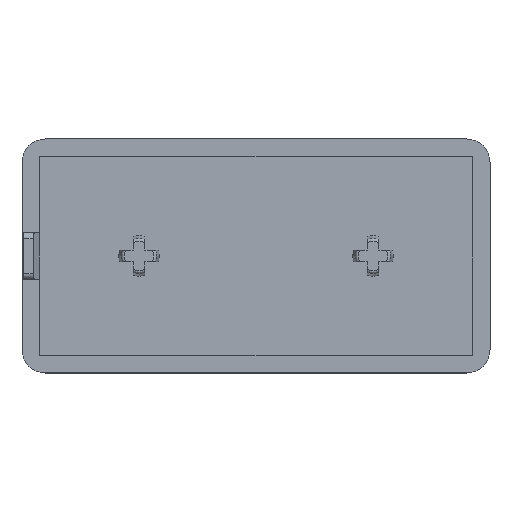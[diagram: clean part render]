
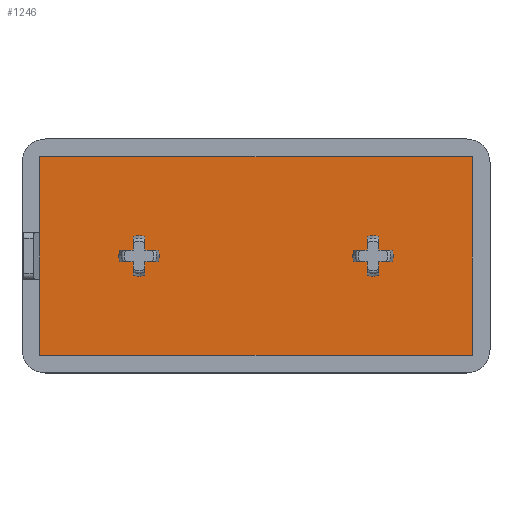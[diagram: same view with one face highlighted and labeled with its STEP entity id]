
A CAD part, top view. The second image highlights one B-rep face of the part: STEP entity #1246.
In plain terms, the highlighted planar face has unit normal (0, 0, 1).
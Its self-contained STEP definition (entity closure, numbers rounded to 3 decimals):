
#33=FACE_BOUND('',#398,.T.);
#34=FACE_BOUND('',#399,.T.);
#36=PLANE('',#1355);
#85=LINE('',#1952,#188);
#86=LINE('',#1954,#189);
#87=LINE('',#1956,#190);
#88=LINE('',#1957,#191);
#89=LINE('',#1959,#192);
#90=LINE('',#1961,#193);
#91=LINE('',#1965,#194);
#92=LINE('',#1967,#195);
#93=LINE('',#1971,#196);
#94=LINE('',#1973,#197);
#95=LINE('',#1977,#198);
#96=LINE('',#1978,#199);
#97=LINE('',#1980,#200);
#98=LINE('',#1982,#201);
#99=LINE('',#1986,#202);
#100=LINE('',#1988,#203);
#101=LINE('',#1992,#204);
#102=LINE('',#1994,#205);
#103=LINE('',#1998,#206);
#104=LINE('',#1999,#207);
#188=VECTOR('',#1524,34.);
#189=VECTOR('',#1525,74.);
#190=VECTOR('',#1526,34.);
#191=VECTOR('',#1527,74.);
#192=VECTOR('',#1528,2.302);
#193=VECTOR('',#1529,2.302);
#194=VECTOR('',#1532,2.302);
#195=VECTOR('',#1533,2.302);
#196=VECTOR('',#1536,2.302);
#197=VECTOR('',#1537,2.303);
#198=VECTOR('',#1540,2.303);
#199=VECTOR('',#1541,2.302);
#200=VECTOR('',#1542,2.302);
#201=VECTOR('',#1543,2.302);
#202=VECTOR('',#1546,2.302);
#203=VECTOR('',#1547,2.302);
#204=VECTOR('',#1550,2.302);
#205=VECTOR('',#1551,2.303);
#206=VECTOR('',#1554,2.303);
#207=VECTOR('',#1555,2.302);
#324=FACE_OUTER_BOUND('',#397,.T.);
#397=EDGE_LOOP('',(#889,#890,#891,#892));
#398=EDGE_LOOP('',(#893,#894,#895,#896,#897,#898,#899,#900,#901,#902,#903,
#904));
#399=EDGE_LOOP('',(#905,#906,#907,#908,#909,#910,#911,#912,#913,#914,#915,
#916));
#488=CIRCLE('',#1347,3.45);
#489=CIRCLE('',#1349,3.45);
#494=CIRCLE('',#1356,3.45);
#495=CIRCLE('',#1357,3.45);
#496=CIRCLE('',#1358,3.45);
#497=CIRCLE('',#1359,3.45);
#498=CIRCLE('',#1360,3.45);
#499=CIRCLE('',#1361,3.45);
#550=VERTEX_POINT('',#1905);
#551=VERTEX_POINT('',#1907);
#552=VERTEX_POINT('',#1911);
#553=VERTEX_POINT('',#1913);
#570=VERTEX_POINT('',#1950);
#571=VERTEX_POINT('',#1951);
#572=VERTEX_POINT('',#1953);
#573=VERTEX_POINT('',#1955);
#574=VERTEX_POINT('',#1958);
#575=VERTEX_POINT('',#1960);
#576=VERTEX_POINT('',#1962);
#577=VERTEX_POINT('',#1964);
#578=VERTEX_POINT('',#1966);
#579=VERTEX_POINT('',#1968);
#580=VERTEX_POINT('',#1970);
#581=VERTEX_POINT('',#1972);
#582=VERTEX_POINT('',#1974);
#583=VERTEX_POINT('',#1976);
#584=VERTEX_POINT('',#1979);
#585=VERTEX_POINT('',#1981);
#586=VERTEX_POINT('',#1983);
#587=VERTEX_POINT('',#1985);
#588=VERTEX_POINT('',#1987);
#589=VERTEX_POINT('',#1989);
#590=VERTEX_POINT('',#1991);
#591=VERTEX_POINT('',#1993);
#592=VERTEX_POINT('',#1995);
#593=VERTEX_POINT('',#1997);
#675=EDGE_CURVE('',#550,#551,#488,.T.);
#678=EDGE_CURVE('',#552,#553,#489,.T.);
#696=EDGE_CURVE('',#570,#571,#85,.T.);
#697=EDGE_CURVE('',#571,#572,#86,.T.);
#698=EDGE_CURVE('',#572,#573,#87,.T.);
#699=EDGE_CURVE('',#573,#570,#88,.T.);
#700=EDGE_CURVE('',#574,#552,#89,.T.);
#701=EDGE_CURVE('',#575,#574,#90,.T.);
#702=EDGE_CURVE('',#576,#575,#494,.T.);
#703=EDGE_CURVE('',#577,#576,#91,.T.);
#704=EDGE_CURVE('',#578,#577,#92,.T.);
#705=EDGE_CURVE('',#579,#578,#495,.T.);
#706=EDGE_CURVE('',#580,#579,#93,.T.);
#707=EDGE_CURVE('',#581,#580,#94,.T.);
#708=EDGE_CURVE('',#582,#581,#496,.T.);
#709=EDGE_CURVE('',#583,#582,#95,.T.);
#710=EDGE_CURVE('',#553,#583,#96,.T.);
#711=EDGE_CURVE('',#584,#550,#97,.T.);
#712=EDGE_CURVE('',#585,#584,#98,.T.);
#713=EDGE_CURVE('',#586,#585,#497,.T.);
#714=EDGE_CURVE('',#587,#586,#99,.T.);
#715=EDGE_CURVE('',#588,#587,#100,.T.);
#716=EDGE_CURVE('',#589,#588,#498,.T.);
#717=EDGE_CURVE('',#590,#589,#101,.T.);
#718=EDGE_CURVE('',#591,#590,#102,.T.);
#719=EDGE_CURVE('',#592,#591,#499,.T.);
#720=EDGE_CURVE('',#593,#592,#103,.T.);
#721=EDGE_CURVE('',#551,#593,#104,.T.);
#889=ORIENTED_EDGE('',*,*,#696,.T.);
#890=ORIENTED_EDGE('',*,*,#697,.T.);
#891=ORIENTED_EDGE('',*,*,#698,.T.);
#892=ORIENTED_EDGE('',*,*,#699,.T.);
#893=ORIENTED_EDGE('',*,*,#678,.F.);
#894=ORIENTED_EDGE('',*,*,#700,.F.);
#895=ORIENTED_EDGE('',*,*,#701,.F.);
#896=ORIENTED_EDGE('',*,*,#702,.F.);
#897=ORIENTED_EDGE('',*,*,#703,.F.);
#898=ORIENTED_EDGE('',*,*,#704,.F.);
#899=ORIENTED_EDGE('',*,*,#705,.F.);
#900=ORIENTED_EDGE('',*,*,#706,.F.);
#901=ORIENTED_EDGE('',*,*,#707,.F.);
#902=ORIENTED_EDGE('',*,*,#708,.F.);
#903=ORIENTED_EDGE('',*,*,#709,.F.);
#904=ORIENTED_EDGE('',*,*,#710,.F.);
#905=ORIENTED_EDGE('',*,*,#675,.F.);
#906=ORIENTED_EDGE('',*,*,#711,.F.);
#907=ORIENTED_EDGE('',*,*,#712,.F.);
#908=ORIENTED_EDGE('',*,*,#713,.F.);
#909=ORIENTED_EDGE('',*,*,#714,.F.);
#910=ORIENTED_EDGE('',*,*,#715,.F.);
#911=ORIENTED_EDGE('',*,*,#716,.F.);
#912=ORIENTED_EDGE('',*,*,#717,.F.);
#913=ORIENTED_EDGE('',*,*,#718,.F.);
#914=ORIENTED_EDGE('',*,*,#719,.F.);
#915=ORIENTED_EDGE('',*,*,#720,.F.);
#916=ORIENTED_EDGE('',*,*,#721,.F.);
#1246=ADVANCED_FACE('',(#324,#33,#34),#36,.T.);
#1347=AXIS2_PLACEMENT_3D('',#1908,#1491,#1492);
#1349=AXIS2_PLACEMENT_3D('',#1914,#1497,#1498);
#1355=AXIS2_PLACEMENT_3D('',#1949,#1522,#1523);
#1356=AXIS2_PLACEMENT_3D('',#1963,#1530,#1531);
#1357=AXIS2_PLACEMENT_3D('',#1969,#1534,#1535);
#1358=AXIS2_PLACEMENT_3D('',#1975,#1538,#1539);
#1359=AXIS2_PLACEMENT_3D('',#1984,#1544,#1545);
#1360=AXIS2_PLACEMENT_3D('',#1990,#1548,#1549);
#1361=AXIS2_PLACEMENT_3D('',#1996,#1552,#1553);
#1491=DIRECTION('center_axis',(0.,0.,1.));
#1492=DIRECTION('ref_axis',(1.,0.,0.));
#1497=DIRECTION('center_axis',(0.,0.,1.));
#1498=DIRECTION('ref_axis',(1.,0.,0.));
#1522=DIRECTION('center_axis',(0.,0.,1.));
#1523=DIRECTION('ref_axis',(1.,0.,0.));
#1524=DIRECTION('',(0.,-1.,0.));
#1525=DIRECTION('',(1.,0.,0.));
#1526=DIRECTION('',(0.,1.,0.));
#1527=DIRECTION('',(-1.,0.,0.));
#1528=DIRECTION('',(-1.,0.,0.));
#1529=DIRECTION('',(0.,-1.,0.));
#1530=DIRECTION('center_axis',(0.,0.,1.));
#1531=DIRECTION('ref_axis',(1.,0.,0.));
#1532=DIRECTION('',(0.,1.,0.));
#1533=DIRECTION('',(-1.,0.,0.));
#1534=DIRECTION('center_axis',(0.,0.,1.));
#1535=DIRECTION('ref_axis',(1.,0.,0.));
#1536=DIRECTION('',(1.,0.,0.));
#1537=DIRECTION('',(0.,1.,0.));
#1538=DIRECTION('center_axis',(0.,0.,1.));
#1539=DIRECTION('ref_axis',(1.,0.,0.));
#1540=DIRECTION('',(0.,-1.,0.));
#1541=DIRECTION('',(1.,0.,0.));
#1542=DIRECTION('',(-1.,0.,0.));
#1543=DIRECTION('',(0.,-1.,0.));
#1544=DIRECTION('center_axis',(0.,0.,1.));
#1545=DIRECTION('ref_axis',(1.,0.,0.));
#1546=DIRECTION('',(0.,1.,0.));
#1547=DIRECTION('',(-1.,0.,0.));
#1548=DIRECTION('center_axis',(0.,0.,1.));
#1549=DIRECTION('ref_axis',(1.,0.,0.));
#1550=DIRECTION('',(1.,0.,0.));
#1551=DIRECTION('',(0.,1.,0.));
#1552=DIRECTION('center_axis',(0.,0.,1.));
#1553=DIRECTION('ref_axis',(1.,0.,0.));
#1554=DIRECTION('',(0.,-1.,0.));
#1555=DIRECTION('',(1.,0.,0.));
#1905=CARTESIAN_POINT('',(36.698,1.,3.));
#1907=CARTESIAN_POINT('',(36.698,-0.999,3.));
#1908=CARTESIAN_POINT('Origin',(40.,0.,3.));
#1911=CARTESIAN_POINT('',(-3.302,1.,3.));
#1913=CARTESIAN_POINT('',(-3.302,-0.999,3.));
#1914=CARTESIAN_POINT('Origin',(0.,0.,3.));
#1949=CARTESIAN_POINT('Origin',(-17.,17.,3.));
#1950=CARTESIAN_POINT('',(-17.,17.,3.));
#1951=CARTESIAN_POINT('',(-17.,-17.,3.));
#1952=CARTESIAN_POINT('',(-17.,17.,3.));
#1953=CARTESIAN_POINT('',(57.,-17.,3.));
#1954=CARTESIAN_POINT('',(-17.,-17.,3.));
#1955=CARTESIAN_POINT('',(57.,17.,3.));
#1956=CARTESIAN_POINT('',(57.,-17.,3.));
#1957=CARTESIAN_POINT('',(57.,17.,3.));
#1958=CARTESIAN_POINT('',(-1.,1.,3.));
#1959=CARTESIAN_POINT('',(-1.,1.,3.));
#1960=CARTESIAN_POINT('',(-1.,3.302,3.));
#1961=CARTESIAN_POINT('',(-1.,3.302,3.));
#1962=CARTESIAN_POINT('',(1.,3.302,3.));
#1963=CARTESIAN_POINT('Origin',(0.,0.,3.));
#1964=CARTESIAN_POINT('',(1.,1.,3.));
#1965=CARTESIAN_POINT('',(1.,1.,3.));
#1966=CARTESIAN_POINT('',(3.302,1.,3.));
#1967=CARTESIAN_POINT('',(3.302,1.,3.));
#1968=CARTESIAN_POINT('',(3.302,-0.999,3.));
#1969=CARTESIAN_POINT('Origin',(0.,0.,3.));
#1970=CARTESIAN_POINT('',(1.,-0.999,3.));
#1971=CARTESIAN_POINT('',(1.,-0.999,3.));
#1972=CARTESIAN_POINT('',(1.,-3.302,3.));
#1973=CARTESIAN_POINT('',(1.,-3.302,3.));
#1974=CARTESIAN_POINT('',(-1.,-3.302,3.));
#1975=CARTESIAN_POINT('Origin',(0.,0.,3.));
#1976=CARTESIAN_POINT('',(-1.,-0.999,3.));
#1977=CARTESIAN_POINT('',(-1.,-0.999,3.));
#1978=CARTESIAN_POINT('',(-3.302,-0.999,3.));
#1979=CARTESIAN_POINT('',(39.,1.,3.));
#1980=CARTESIAN_POINT('',(39.,1.,3.));
#1981=CARTESIAN_POINT('',(39.,3.302,3.));
#1982=CARTESIAN_POINT('',(39.,3.302,3.));
#1983=CARTESIAN_POINT('',(41.,3.302,3.));
#1984=CARTESIAN_POINT('Origin',(40.,0.,3.));
#1985=CARTESIAN_POINT('',(41.,1.,3.));
#1986=CARTESIAN_POINT('',(41.,1.,3.));
#1987=CARTESIAN_POINT('',(43.302,1.,3.));
#1988=CARTESIAN_POINT('',(43.302,1.,3.));
#1989=CARTESIAN_POINT('',(43.302,-0.999,3.));
#1990=CARTESIAN_POINT('Origin',(40.,0.,3.));
#1991=CARTESIAN_POINT('',(41.,-0.999,3.));
#1992=CARTESIAN_POINT('',(41.,-0.999,3.));
#1993=CARTESIAN_POINT('',(41.,-3.302,3.));
#1994=CARTESIAN_POINT('',(41.,-3.302,3.));
#1995=CARTESIAN_POINT('',(39.,-3.302,3.));
#1996=CARTESIAN_POINT('Origin',(40.,0.,3.));
#1997=CARTESIAN_POINT('',(39.,-0.999,3.));
#1998=CARTESIAN_POINT('',(39.,-0.999,3.));
#1999=CARTESIAN_POINT('',(36.698,-0.999,3.));
